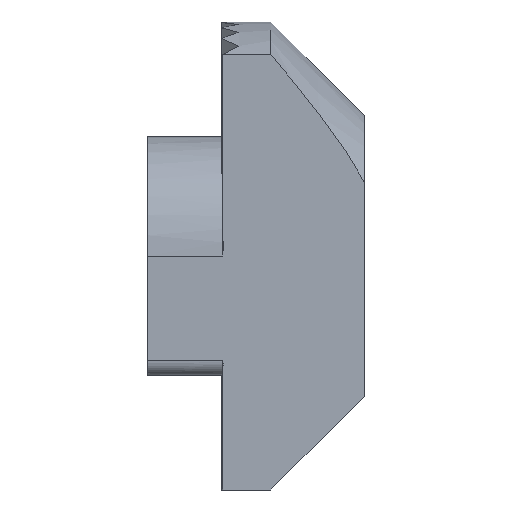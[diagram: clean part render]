
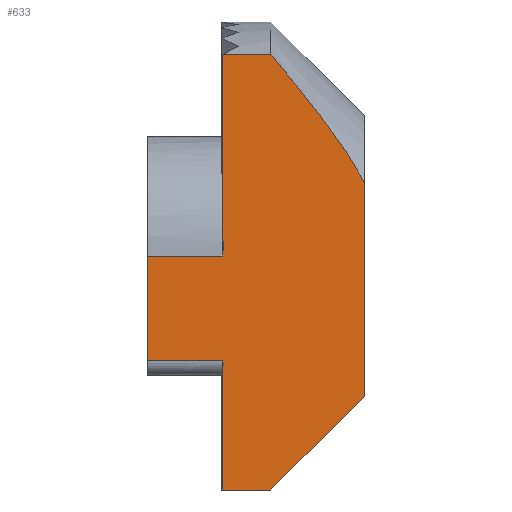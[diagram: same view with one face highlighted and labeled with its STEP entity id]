
A CAD part, left-side view. The second image highlights one B-rep face of the part: STEP entity #633.
In plain terms, the highlighted planar face has unit normal (-1, 0, 0).
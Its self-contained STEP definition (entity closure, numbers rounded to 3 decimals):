
#54 = VECTOR ( 'NONE', #2842, 1000. ) ;
#72 = EDGE_CURVE ( 'NONE', #4980, #5440, #1171, .T. ) ;
#128 = CARTESIAN_POINT ( 'NONE',  ( -4.85, 0., -9.5 ) ) ;
#190 = CARTESIAN_POINT ( 'NONE',  ( -4.85, 1.13, 4.82 ) ) ;
#226 = VECTOR ( 'NONE', #750, 1000. ) ;
#231 = CARTESIAN_POINT ( 'NONE',  ( -4.85, 5.75, -9.5 ) ) ;
#247 = CARTESIAN_POINT ( 'NONE',  ( -4.85, 8.8, 0. ) ) ;
#264 = DIRECTION ( 'NONE',  ( 0., 0., -1. ) ) ;
#287 = ORIENTED_EDGE ( 'NONE', *, *, #5556, .T. ) ;
#428 = CARTESIAN_POINT ( 'NONE',  ( -4.85, 5.8, -9.5 ) ) ;
#479 = FACE_OUTER_BOUND ( 'NONE', #5339, .T. ) ;
#633 = ADVANCED_FACE ( 'NONE', ( #479 ), #3984, .F. ) ;
#719 = CARTESIAN_POINT ( 'NONE',  ( -4.85, 8.8, 0. ) ) ;
#750 = DIRECTION ( 'NONE',  ( 0., 0., -1. ) ) ;
#770 = CARTESIAN_POINT ( 'NONE',  ( -4.85, 3.8, -9.5 ) ) ;
#817 = LINE ( 'NONE', #770, #1023 ) ;
#857 = EDGE_CURVE ( 'NONE', #5207, #5440, #4139, .T. ) ;
#961 = ORIENTED_EDGE ( 'NONE', *, *, #1762, .T. ) ;
#1023 = VECTOR ( 'NONE', #5099, 1000. ) ;
#1051 = CARTESIAN_POINT ( 'NONE',  ( -4.85, 3.1, 7.355 ) ) ;
#1161 = CARTESIAN_POINT ( 'NONE',  ( -4.85, 5.75, 8.169 ) ) ;
#1171 = LINE ( 'NONE', #719, #226 ) ;
#1240 = DIRECTION ( 'NONE',  ( 0., -1., 0. ) ) ;
#1378 = EDGE_CURVE ( 'NONE', #5062, #4966, #817, .T. ) ;
#1433 = VERTEX_POINT ( 'NONE', #1161 ) ;
#1490 = VECTOR ( 'NONE', #4442, 1000. ) ;
#1513 = EDGE_CURVE ( 'NONE', #1433, #4853, #4710, .T. ) ;
#1628 = CARTESIAN_POINT ( 'NONE',  ( -4.85, 0., -5.7 ) ) ;
#1762 = EDGE_CURVE ( 'NONE', #4966, #3674, #4304, .T. ) ;
#1798 = CARTESIAN_POINT ( 'NONE',  ( -4.85, 3.8, 8.169 ) ) ;
#1825 = CARTESIAN_POINT ( 'NONE',  ( -4.85, 0.534, 3.93 ) ) ;
#1988 = VERTEX_POINT ( 'NONE', #231 ) ;
#2013 = LINE ( 'NONE', #3680, #2569 ) ;
#2014 = ORIENTED_EDGE ( 'NONE', *, *, #3061, .F. ) ;
#2086 = EDGE_CURVE ( 'NONE', #1988, #5062, #2896, .T. ) ;
#2186 = CARTESIAN_POINT ( 'NONE',  ( -4.85, 5.75, -4.25 ) ) ;
#2225 = CARTESIAN_POINT ( 'NONE',  ( -4.85, 0., 2.995 ) ) ;
#2265 = ORIENTED_EDGE ( 'NONE', *, *, #857, .F. ) ;
#2289 = ORIENTED_EDGE ( 'NONE', *, *, #72, .T. ) ;
#2449 = CARTESIAN_POINT ( 'NONE',  ( -4.85, 5.8, -9.5 ) ) ;
#2474 = VECTOR ( 'NONE', #264, 1000. ) ;
#2508 = CARTESIAN_POINT ( 'NONE',  ( -4.85, 4.8, 0. ) ) ;
#2538 = CARTESIAN_POINT ( 'NONE',  ( -4.85, 5.75, -9.5 ) ) ;
#2569 = VECTOR ( 'NONE', #5467, 1000. ) ;
#2600 = CARTESIAN_POINT ( 'NONE',  ( -4.85, 3.8, -9.5 ) ) ;
#2601 = ORIENTED_EDGE ( 'NONE', *, *, #2086, .T. ) ;
#2612 = EDGE_CURVE ( 'NONE', #3674, #5235, #4031, .T. ) ;
#2842 = DIRECTION ( 'NONE',  ( 0., 1., 0. ) ) ;
#2896 = LINE ( 'NONE', #2449, #3292 ) ;
#2899 = LINE ( 'NONE', #2508, #4023 ) ;
#3061 = EDGE_CURVE ( 'NONE', #1433, #5235, #5118, .T. ) ;
#3070 = DIRECTION ( 'NONE',  ( 1., 0., 0. ) ) ;
#3115 = CARTESIAN_POINT ( 'NONE',  ( -4.85, 8.8, -4.25 ) ) ;
#3243 = ORIENTED_EDGE ( 'NONE', *, *, #1513, .T. ) ;
#3292 = VECTOR ( 'NONE', #4589, 1000. ) ;
#3600 = ORIENTED_EDGE ( 'NONE', *, *, #1378, .T. ) ;
#3674 = VERTEX_POINT ( 'NONE', #4898 ) ;
#3680 = CARTESIAN_POINT ( 'NONE',  ( -4.85, 5.75, -9.5 ) ) ;
#3984 = PLANE ( 'NONE',  #4018 ) ;
#4006 = CARTESIAN_POINT ( 'NONE',  ( -4.85, 1.444, 5.253 ) ) ;
#4018 = AXIS2_PLACEMENT_3D ( 'NONE', #428, #3070, #4349 ) ;
#4023 = VECTOR ( 'NONE', #5171, 1000. ) ;
#4031 = B_SPLINE_CURVE_WITH_KNOTS ( 'NONE', 3,
 ( #2225, #4484, #1825, #190, #4006, #5352, #1051, #1798 ),
 .UNSPECIFIED., .F., .F.,
 ( 4, 2, 2, 4 ),
 ( 0., 0.002, 0.003, 0.006 ),
 .UNSPECIFIED. ) ;
#4139 = LINE ( 'NONE', #4194, #54 ) ;
#4146 = ORIENTED_EDGE ( 'NONE', *, *, #2612, .T. ) ;
#4194 = CARTESIAN_POINT ( 'NONE',  ( -4.85, 4.8, -4.25 ) ) ;
#4304 = LINE ( 'NONE', #128, #1490 ) ;
#4349 = DIRECTION ( 'NONE',  ( 0., 0., -1. ) ) ;
#4374 = EDGE_CURVE ( 'NONE', #4853, #4980, #2899, .T. ) ;
#4442 = DIRECTION ( 'NONE',  ( 0., 0., 1. ) ) ;
#4476 = ORIENTED_EDGE ( 'NONE', *, *, #4374, .T. ) ;
#4484 = CARTESIAN_POINT ( 'NONE',  ( -4.85, 0.252, 3.474 ) ) ;
#4587 = CARTESIAN_POINT ( 'NONE',  ( -4.85, 5.8, 8.169 ) ) ;
#4589 = DIRECTION ( 'NONE',  ( 0., -1., 0. ) ) ;
#4653 = VECTOR ( 'NONE', #1240, 1000. ) ;
#4710 = LINE ( 'NONE', #2538, #2474 ) ;
#4853 = VERTEX_POINT ( 'NONE', #5476 ) ;
#4898 = CARTESIAN_POINT ( 'NONE',  ( -4.85, 0., 2.995 ) ) ;
#4966 = VERTEX_POINT ( 'NONE', #1628 ) ;
#4980 = VERTEX_POINT ( 'NONE', #247 ) ;
#5062 = VERTEX_POINT ( 'NONE', #2600 ) ;
#5099 = DIRECTION ( 'NONE',  ( 0., -0.707, 0.707 ) ) ;
#5118 = LINE ( 'NONE', #4587, #4653 ) ;
#5133 = CARTESIAN_POINT ( 'NONE',  ( -4.85, 3.8, 8.169 ) ) ;
#5171 = DIRECTION ( 'NONE',  ( 0., 1., 0. ) ) ;
#5207 = VERTEX_POINT ( 'NONE', #2186 ) ;
#5235 = VERTEX_POINT ( 'NONE', #5133 ) ;
#5339 = EDGE_LOOP ( 'NONE', ( #2601, #3600, #961, #4146, #2014, #3243, #4476, #2289, #2265, #287 ) ) ;
#5352 = CARTESIAN_POINT ( 'NONE',  ( -4.85, 2.416, 6.53 ) ) ;
#5440 = VERTEX_POINT ( 'NONE', #3115 ) ;
#5467 = DIRECTION ( 'NONE',  ( 0., 0., -1. ) ) ;
#5476 = CARTESIAN_POINT ( 'NONE',  ( -4.85, 5.75, 0. ) ) ;
#5556 = EDGE_CURVE ( 'NONE', #5207, #1988, #2013, .T. ) ;
